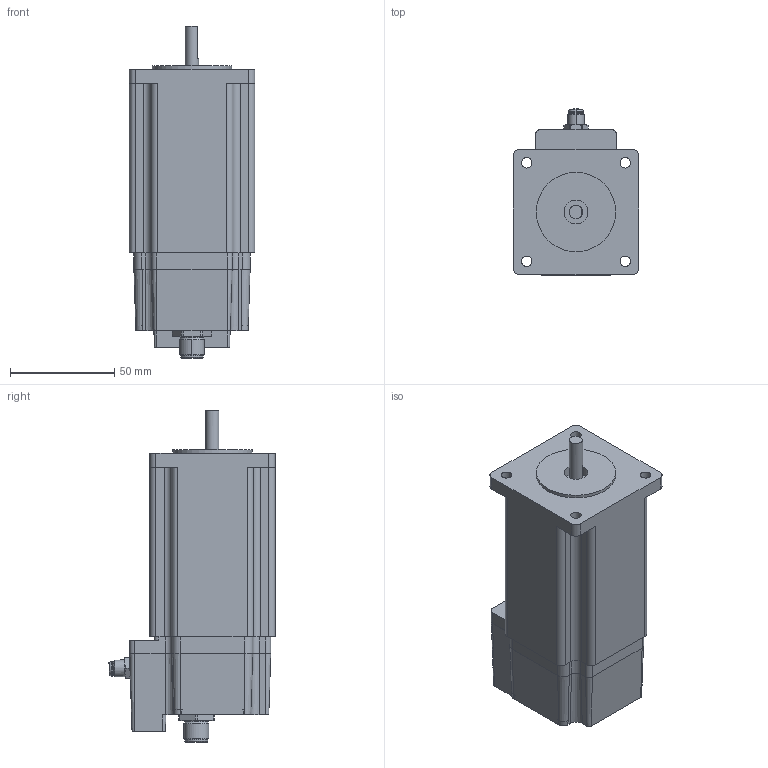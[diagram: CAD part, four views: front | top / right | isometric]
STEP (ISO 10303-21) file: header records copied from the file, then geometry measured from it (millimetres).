
FILE_DESCRIPTION(/* description */ ('Alibre Inc.'),/* implementation_level */ '2;1');
FILE_NAME(/* name */ 'export-2EEFE06D-A9E7-4836-B5BF-31BD1C96A228',/* time_stamp */ '2026-03-03T12:13:57-05:00',/* author */ (''),/* organization */ (''),/* preprocessor_version */ 'ST-DEVELOPER v17',/* originating_system */ 'Alibre',/* authorisation */ '');
FILE_SCHEMA (('CONFIG_CONTROL_DESIGN'));
Length unit declared in the file: millimetre
Bounding box: 60 x 79.5 x 158.93 mm (x, y, z)
Volume: 399879.1 mm3; surface area: 45841.7 mm2
Topology: 1 solids, 24 shells, 608 faces, 1422 edges, 919 vertices
Faces by surface type: cylinder 226, plane 220, bspline 64, cone 63, torus 28, sphere 7
Full cylindrical faces by diameter (mm): 1.1 x8, 1.5 x3, 2 x4, 2.433 x4, 2.87 x4, 3 x5, 3.556 x4, 5 x4, 5.44 x4, 6.35 x1, 7.938 x1, 8 x3, 8.35 x1, 11 x1, 11.4 x2, 12.7 x1, 26 x1, 38.1 x1
Entity records: 17765 total; most frequent: CARTESIAN_POINT 4594, ORIENTED_EDGE 2648, DIRECTION 2522, EDGE_CURVE 1324, AXIS2_PLACEMENT_3D 1088, VERTEX_POINT 892, EDGE_LOOP 762, FACE_BOUND 762
